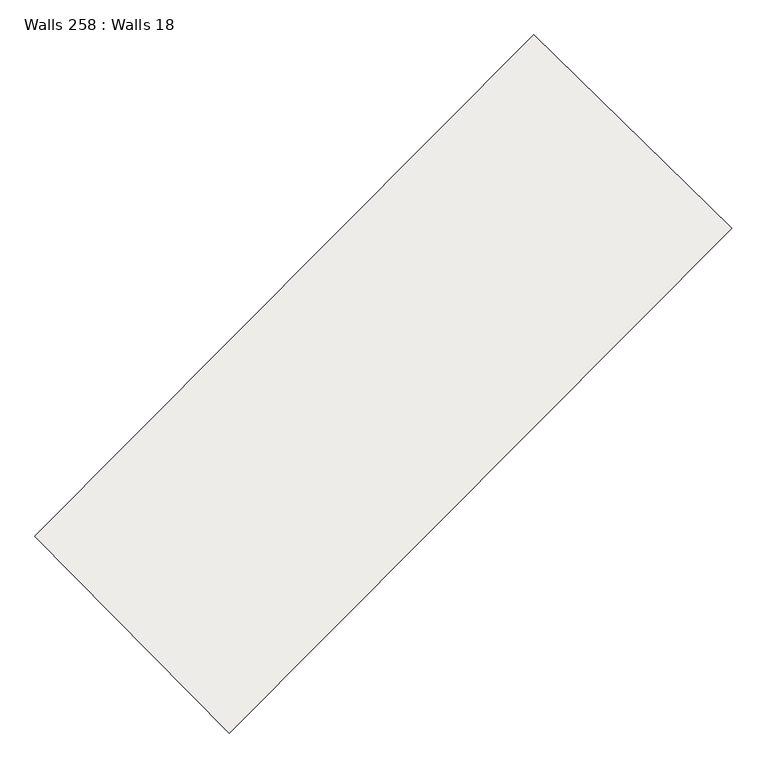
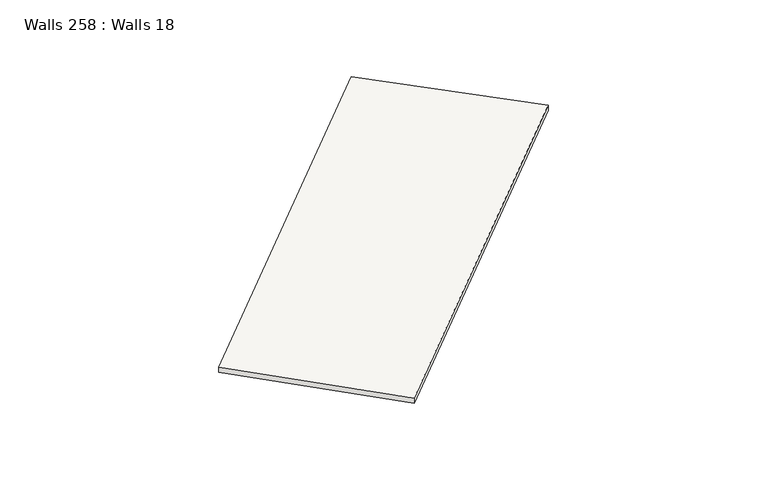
"""IFC4 building model written with IfcOpenShell, lengths in millimetres: slab geometry, Walls 258 : Walls 18."""

from ifc_helpers import new_model, si_unit, frame, origin, place, context, project, spatial, source, transform, mapped, element, save
from ifc_brep_helpers import plane_surface, spline_curve, spline_surface, advanced_brep


def walls_258_walls_18_b2403895(model_context):
    return source(origin(), model_context, "Body", "AdvancedBrep", [
        advanced_brep(
        [(-234152.3074132, -392662.233345, 634660.0), (-234152.3074132, -392662.233345, 634760.0), (-231720.7565389, -395038.6929693, 634760.0), (-231720.7565389, -395038.6929693, 634660.0), (-240276.6954473, -398817.3712528, 634590.0), (-237892.8941494, -401236.3700462, 634590.0), (-237892.8941494, -401236.3700462, 634690.0), (-240276.6954473, -398817.3712528, 634690.0)],
        [
            (0, 1),
            (1, 2),
            (2, 3),
            (3, 0),
            (4, 5),
            (5, 6),
            (6, 7),
            (7, 4),
            (4, 0, spline_curve(3, [(-240276.6954473, -398817.3712528, 634590.0), (-238216.012458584, -396784.88613084, 634613.333332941), (-236174.429808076, -394733.052708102, 634636.666667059), (-234152.3074132, -392662.233345, 634660.0)], [4, 4], [0.0, 28.59336445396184])),
            (3, 5, spline_curve(3, [(-231720.7565389, -395038.6929693, 634660.0), (-233758.67017782, -397123.849662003, 634636.666667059), (-235816.170396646, -399189.86353702, 634613.333332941), (-237892.8941494, -401236.3700462, 634590.0)], [4, 4], [0.0, 28.59336445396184])),
            (6, 2, spline_curve(3, [(-237892.8941494, -401236.3700462, 634690.0), (-235816.170396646, -399189.86353702, 634713.333332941), (-233758.67017782, -397123.849662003, 634736.666667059), (-231720.7565389, -395038.6929693, 634760.0)], [4, 4], [0.0, 28.59336445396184])),
            (1, 7, spline_curve(3, [(-234152.3074132, -392662.233345, 634760.0), (-236174.429808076, -394733.052708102, 634736.666667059), (-238216.012458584, -396784.88613084, 634713.333332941), (-240276.6954473, -398817.3712528, 634690.0)], [4, 4], [0.0, 28.59336445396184])),
        ],
        [
            plane_surface(frame((-232936.531976, -393850.4631571, 634710.0), z_axis=(0.6989587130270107, 0.7151620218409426, 0.0), x_axis=(0.0, 0.0, 1.0))),
            plane_surface(frame((-239084.7947983, -400026.8706495, 634640.0), z_axis=(-0.7122697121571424, -0.7019058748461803, 0.0), x_axis=(0.0, 0.0, 1.0))),
            spline_surface(3, 3, [[(-237892.8941494, -401236.3700462, 634590.0), (-235816.170397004, -399189.863537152, 634613.333333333), (-233758.670178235, -397123.849662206, 634636.666666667), (-231720.7565389, -395038.6929693, 634660.0)], [(-238687.49458205, -400430.037115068, 634590.0), (-236616.117750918, -398388.204401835, 634613.333333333), (-234563.923388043, -396326.917344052, 634636.666666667), (-232531.273496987, -394246.539761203, 634660.0)], [(-239482.09501465, -399623.704183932, 634590.0), (-237416.06510478, -397586.545266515, 634613.333333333), (-235369.176597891, -395529.985025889, 634636.666666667), (-233341.790455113, -393454.386553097, 634660.0)], [(-240276.6954473, -398817.3712528, 634590.0), (-238216.012458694, -396784.886131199, 634613.333333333), (-236174.429807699, -394733.052707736, 634636.666666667), (-234152.3074132, -392662.233345, 634660.0)]], [4, 4], [4, 4], [0.0, 11.1485953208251], [0.0, 28.59336445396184]),
            spline_surface(3, 3, [[(-240276.6954473, -398817.3712528, 634690.0), (-238216.012458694, -396784.886131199, 634713.333333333), (-236174.429807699, -394733.052707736, 634736.666666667), (-234152.3074132, -392662.233345, 634760.0)], [(-239482.09501465, -399623.704183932, 634690.0), (-237416.06510478, -397586.545266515, 634713.333333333), (-235369.176597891, -395529.985025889, 634736.666666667), (-233341.790455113, -393454.386553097, 634760.0)], [(-238687.49458205, -400430.037115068, 634690.0), (-236616.117750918, -398388.204401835, 634713.333333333), (-234563.923388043, -396326.917344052, 634736.666666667), (-232531.273496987, -394246.539761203, 634760.0)], [(-237892.8941494, -401236.3700462, 634690.0), (-235816.170397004, -399189.863537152, 634713.333333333), (-233758.670178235, -397123.849662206, 634736.666666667), (-231720.7565389, -395038.6929693, 634760.0)]], [4, 4], [4, 4], [0.0, 11.148595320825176], [0.0, 28.59336445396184]),
            spline_surface(3, 3, [[(-240276.6954473, -398817.3712528, 634590.0), (-238216.012458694, -396784.886131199, 634613.333333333), (-236174.429807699, -394733.052707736, 634636.666666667), (-234152.3074132, -392662.233345, 634660.0)], [(-240276.6954473, -398817.3712528, 634623.333333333), (-238216.012458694, -396784.886131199, 634646.666666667), (-236174.429807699, -394733.052707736, 634670.0), (-234152.3074132, -392662.233345, 634693.333333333)], [(-240276.6954473, -398817.3712528, 634656.666666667), (-238216.012458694, -396784.886131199, 634680.0), (-236174.429807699, -394733.052707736, 634703.333333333), (-234152.3074132, -392662.233345, 634726.666666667)], [(-240276.6954473, -398817.3712528, 634690.0), (-238216.012458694, -396784.886131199, 634713.333333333), (-236174.429807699, -394733.052707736, 634736.666666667), (-234152.3074132, -392662.233345, 634760.0)]], [4, 4], [4, 4], [0.0, 0.3280839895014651], [0.0, 28.488650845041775]),
            spline_surface(3, 3, [[(-237892.8941494, -401236.3700462, 634690.0), (-235816.170397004, -399189.863537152, 634713.333333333), (-233758.670178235, -397123.849662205, 634736.666666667), (-231720.7565389, -395038.6929693, 634760.0)], [(-237892.8941494, -401236.3700462, 634656.666666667), (-235816.170397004, -399189.863537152, 634680.0), (-233758.670178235, -397123.849662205, 634703.333333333), (-231720.7565389, -395038.6929693, 634726.666666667)], [(-237892.8941494, -401236.3700462, 634623.333333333), (-235816.170397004, -399189.863537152, 634646.666666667), (-233758.670178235, -397123.849662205, 634670.0), (-231720.7565389, -395038.6929693, 634693.333333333)], [(-237892.8941494, -401236.3700462, 634590.0), (-235816.170397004, -399189.863537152, 634613.333333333), (-233758.670178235, -397123.849662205, 634636.666666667), (-231720.7565389, -395038.6929693, 634660.0)]], [4, 4], [4, 4], [0.0, 0.3280839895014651], [0.0, 28.69807946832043]),
        ],
        [
            (0, [[1, 2, 3, 4]]),
            (1, [[5, 6, 7, 8]]),
            (2, [[-5, 9, -4, 10]]),
            (3, [[-7, 11, -2, 12]]),
            (4, [[-8, -12, -1, -9]]),
            (5, [[-6, -10, -3, -11]]),
        ],
    ),
    ])


if __name__ == "__main__":
    model = new_model("IFC4")
    model_context = context("Model", 3, world=origin())
    ifc_project = project(units=[si_unit("LENGTHUNIT", "METRE", prefix="MILLI")], contexts=[model_context])
    site = spatial("IfcSite", under=ifc_project)
    building = spatial("IfcBuilding", under=site)
    placement = place(None, origin())
    walls_258_walls_18_shape = walls_258_walls_18_b2403895(model_context)
    element("IfcSlab", 1, ObjectType="Walls 258 : Walls 18", at=placement, inside=building, context=model_context, shape_type="MappedRepresentation", body=[
        mapped(walls_258_walls_18_shape, transform((0.0, 0.0, 0.0), x_axis=(1.0, 0.0, 0.0), y_axis=(0.0, 1.0, 0.0), z_axis=(0.0, 0.0, 1.0))),
    ])
    save(model, "model.ifc")
